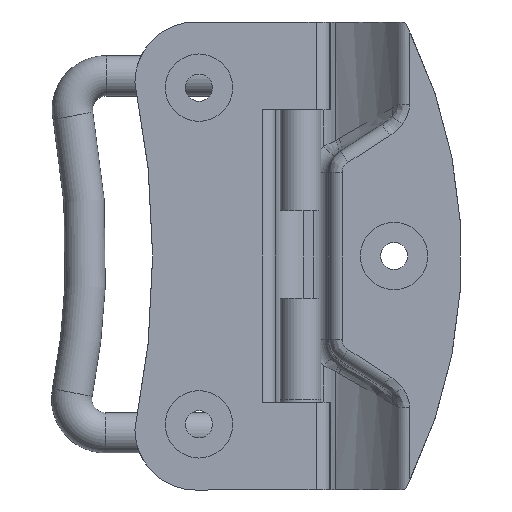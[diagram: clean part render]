
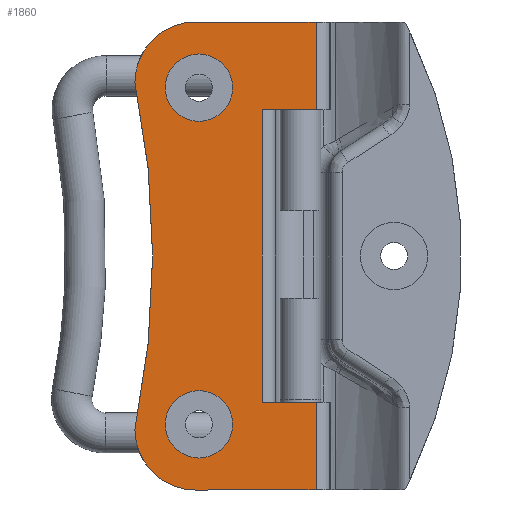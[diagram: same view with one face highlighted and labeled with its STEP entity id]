
A CAD part, front view. The second image highlights one B-rep face of the part: STEP entity #1860.
In plain terms, the highlighted planar face has unit normal (0.009, -1, 0) as drawn and (0, -1, 0) by its records, which use the part's own axes.
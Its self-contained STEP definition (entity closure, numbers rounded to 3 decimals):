
#87=LINE('',#3169,#182);
#88=LINE('',#3171,#183);
#89=LINE('',#3173,#184);
#90=LINE('',#3175,#185);
#91=LINE('',#3177,#186);
#92=LINE('',#3179,#187);
#93=LINE('',#3180,#188);
#182=VECTOR('',#2394,17.9);
#183=VECTOR('',#2395,13.);
#184=VECTOR('',#2396,8.);
#185=VECTOR('',#2397,43.5);
#186=VECTOR('',#2398,8.);
#187=VECTOR('',#2399,13.);
#188=VECTOR('',#2400,17.9);
#309=PLANE('',#2031);
#367=FACE_BOUND('',#560,.T.);
#368=FACE_BOUND('',#561,.T.);
#418=FACE_OUTER_BOUND('',#559,.T.);
#559=EDGE_LOOP('',(#1371,#1372,#1373,#1374,#1375,#1376,#1377,#1378,#1379,
#1380));
#560=EDGE_LOOP('',(#1381));
#561=EDGE_LOOP('',(#1382));
#669=CIRCLE('',#2000,5.);
#675=CIRCLE('',#2010,5.);
#683=CIRCLE('',#2025,127.087);
#686=CIRCLE('',#2030,9.);
#687=CIRCLE('',#2032,9.);
#812=VERTEX_POINT('',#3094);
#818=VERTEX_POINT('',#3110);
#827=VERTEX_POINT('',#3134);
#828=VERTEX_POINT('',#3136);
#839=VERTEX_POINT('',#3162);
#840=VERTEX_POINT('',#3166);
#841=VERTEX_POINT('',#3168);
#842=VERTEX_POINT('',#3170);
#843=VERTEX_POINT('',#3172);
#844=VERTEX_POINT('',#3174);
#845=VERTEX_POINT('',#3176);
#846=VERTEX_POINT('',#3178);
#1011=EDGE_CURVE('',#812,#812,#669,.T.);
#1017=EDGE_CURVE('',#818,#818,#675,.T.);
#1026=EDGE_CURVE('',#828,#827,#683,.T.);
#1039=EDGE_CURVE('',#828,#839,#686,.T.);
#1041=EDGE_CURVE('',#840,#827,#687,.T.);
#1042=EDGE_CURVE('',#840,#841,#87,.T.);
#1043=EDGE_CURVE('',#842,#841,#88,.T.);
#1044=EDGE_CURVE('',#842,#843,#89,.T.);
#1045=EDGE_CURVE('',#844,#843,#90,.T.);
#1046=EDGE_CURVE('',#845,#844,#91,.T.);
#1047=EDGE_CURVE('',#846,#845,#92,.T.);
#1048=EDGE_CURVE('',#846,#839,#93,.T.);
#1371=ORIENTED_EDGE('',*,*,#1026,.T.);
#1372=ORIENTED_EDGE('',*,*,#1041,.F.);
#1373=ORIENTED_EDGE('',*,*,#1042,.T.);
#1374=ORIENTED_EDGE('',*,*,#1043,.F.);
#1375=ORIENTED_EDGE('',*,*,#1044,.T.);
#1376=ORIENTED_EDGE('',*,*,#1045,.F.);
#1377=ORIENTED_EDGE('',*,*,#1046,.F.);
#1378=ORIENTED_EDGE('',*,*,#1047,.F.);
#1379=ORIENTED_EDGE('',*,*,#1048,.T.);
#1380=ORIENTED_EDGE('',*,*,#1039,.F.);
#1381=ORIENTED_EDGE('',*,*,#1011,.T.);
#1382=ORIENTED_EDGE('',*,*,#1017,.T.);
#1860=ADVANCED_FACE('',(#418,#367,#368),#309,.F.);
#2000=AXIS2_PLACEMENT_3D('',#3095,#2316,#2317);
#2010=AXIS2_PLACEMENT_3D('',#3111,#2336,#2337);
#2025=AXIS2_PLACEMENT_3D('',#3137,#2367,#2368);
#2030=AXIS2_PLACEMENT_3D('',#3163,#2387,#2388);
#2031=AXIS2_PLACEMENT_3D('',#3165,#2390,#2391);
#2032=AXIS2_PLACEMENT_3D('',#3167,#2392,#2393);
#2316=DIRECTION('center_axis',(0.,1.,0.));
#2317=DIRECTION('ref_axis',(-1.,0.,0.));
#2336=DIRECTION('center_axis',(0.,1.,0.));
#2337=DIRECTION('ref_axis',(-1.,0.,0.));
#2367=DIRECTION('center_axis',(0.,1.,0.));
#2368=DIRECTION('ref_axis',(0.979,0.,0.203));
#2387=DIRECTION('center_axis',(0.,1.,0.));
#2388=DIRECTION('ref_axis',(-0.707,0.,0.707));
#2390=DIRECTION('center_axis',(0.,1.,0.));
#2391=DIRECTION('ref_axis',(0.,0.,1.));
#2392=DIRECTION('center_axis',(0.,1.,0.));
#2393=DIRECTION('ref_axis',(-0.707,0.,-0.707));
#2394=DIRECTION('',(1.,0.,0.));
#2395=DIRECTION('',(0.,0.,-1.));
#2396=DIRECTION('',(-1.,0.,0.));
#2397=DIRECTION('',(0.,0.,-1.));
#2398=DIRECTION('',(-1.,0.,0.));
#2399=DIRECTION('',(0.,0.,-1.));
#2400=DIRECTION('',(-1.,0.,0.));
#3094=CARTESIAN_POINT('',(-25.6,-0.8,59.75));
#3095=CARTESIAN_POINT('Origin',(-30.6,-0.8,59.75));
#3110=CARTESIAN_POINT('',(-25.6,-0.8,9.75));
#3111=CARTESIAN_POINT('Origin',(-30.6,-0.8,9.75));
#3134=CARTESIAN_POINT('',(-40.1,-0.8,9.));
#3136=CARTESIAN_POINT('',(-40.1,-0.8,60.5));
#3137=CARTESIAN_POINT('Origin',(-164.551,-0.8,34.75));
#3162=CARTESIAN_POINT('',(-31.1,-0.8,69.5));
#3163=CARTESIAN_POINT('Origin',(-31.1,-0.8,60.5));
#3165=CARTESIAN_POINT('Origin',(-26.5,-0.8,34.75));
#3166=CARTESIAN_POINT('',(-31.1,-0.8,0.));
#3167=CARTESIAN_POINT('Origin',(-31.1,-0.8,9.));
#3168=CARTESIAN_POINT('',(-13.2,-0.8,0.));
#3169=CARTESIAN_POINT('',(-11.2,-0.8,0.));
#3170=CARTESIAN_POINT('',(-13.2,-0.8,13.));
#3171=CARTESIAN_POINT('',(-13.2,-0.8,17.375));
#3172=CARTESIAN_POINT('',(-21.2,-0.8,13.));
#3173=CARTESIAN_POINT('',(-19.2,-0.8,13.));
#3174=CARTESIAN_POINT('',(-21.2,-0.8,56.5));
#3175=CARTESIAN_POINT('',(-21.2,-0.8,17.375));
#3176=CARTESIAN_POINT('',(-13.2,-0.8,56.5));
#3177=CARTESIAN_POINT('',(-23.25,-0.8,56.5));
#3178=CARTESIAN_POINT('',(-13.2,-0.8,69.5));
#3179=CARTESIAN_POINT('',(-13.2,-0.8,45.625));
#3180=CARTESIAN_POINT('',(-40.1,-0.8,69.5));
